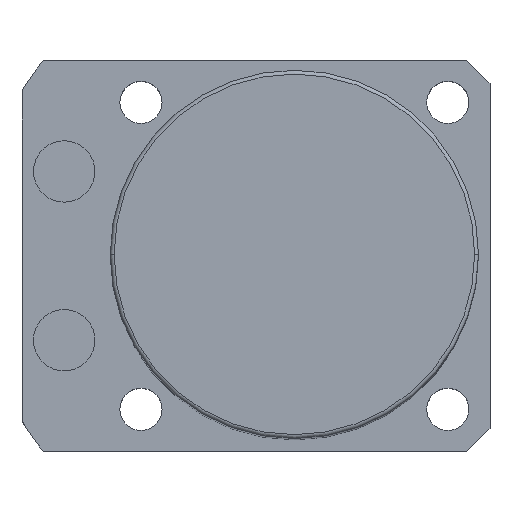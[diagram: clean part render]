
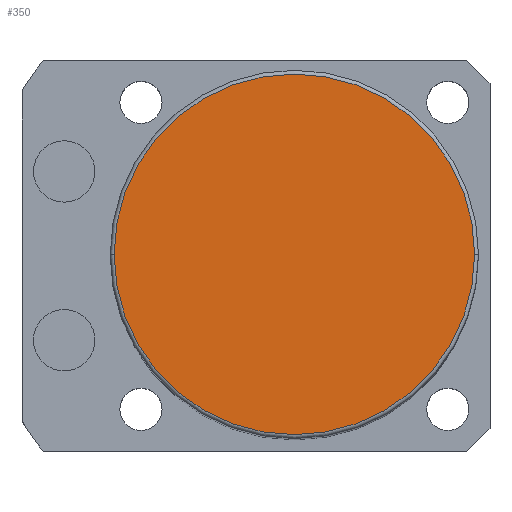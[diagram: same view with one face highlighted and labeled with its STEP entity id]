
A CAD part, top view. The second image highlights one B-rep face of the part: STEP entity #350.
In plain terms, the highlighted planar face has unit normal (0, 0, 1).
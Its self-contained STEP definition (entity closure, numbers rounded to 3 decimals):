
#87 = PLANE ( 'NONE',  #1700 ) ;
#218 = AXIS2_PLACEMENT_3D ( 'NONE', #1670, #586, #763 ) ;
#278 = CARTESIAN_POINT ( 'NONE',  ( 23.5, 0., 121. ) ) ;
#350 = ADVANCED_FACE ( 'NONE', ( #1823 ), #87, .T. ) ;
#586 = DIRECTION ( 'NONE',  ( 0., 0., 1. ) ) ;
#763 = DIRECTION ( 'NONE',  ( 1., 0., 0. ) ) ;
#1021 = DIRECTION ( 'NONE',  ( 1., 0., 0. ) ) ;
#1123 = ORIENTED_EDGE ( 'NONE', *, *, #2365, .T. ) ;
#1158 = DIRECTION ( 'NONE',  ( 1., 0., 0. ) ) ;
#1237 = CIRCLE ( 'NONE', #218, 23.5 ) ;
#1327 = EDGE_CURVE ( 'NONE', #1441, #2255, #1237, .T. ) ;
#1359 = DIRECTION ( 'NONE',  ( 0., 0., 1. ) ) ;
#1441 = VERTEX_POINT ( 'NONE', #278 ) ;
#1670 = CARTESIAN_POINT ( 'NONE',  ( 0., 0., 121. ) ) ;
#1686 = CARTESIAN_POINT ( 'NONE',  ( 0., 0., 121. ) ) ;
#1700 = AXIS2_PLACEMENT_3D ( 'NONE', #2284, #1359, #1021 ) ;
#1823 = FACE_OUTER_BOUND ( 'NONE', #1982, .T. ) ;
#1982 = EDGE_LOOP ( 'NONE', ( #2075, #1123 ) ) ;
#1991 = CIRCLE ( 'NONE', #2194, 23.5 ) ;
#2075 = ORIENTED_EDGE ( 'NONE', *, *, #1327, .T. ) ;
#2194 = AXIS2_PLACEMENT_3D ( 'NONE', #1686, #2239, #1158 ) ;
#2239 = DIRECTION ( 'NONE',  ( 0., 0., 1. ) ) ;
#2255 = VERTEX_POINT ( 'NONE', #2276 ) ;
#2276 = CARTESIAN_POINT ( 'NONE',  ( -23.5, 0., 121. ) ) ;
#2284 = CARTESIAN_POINT ( 'NONE',  ( 0., 0., 121. ) ) ;
#2365 = EDGE_CURVE ( 'NONE', #2255, #1441, #1991, .T. ) ;
